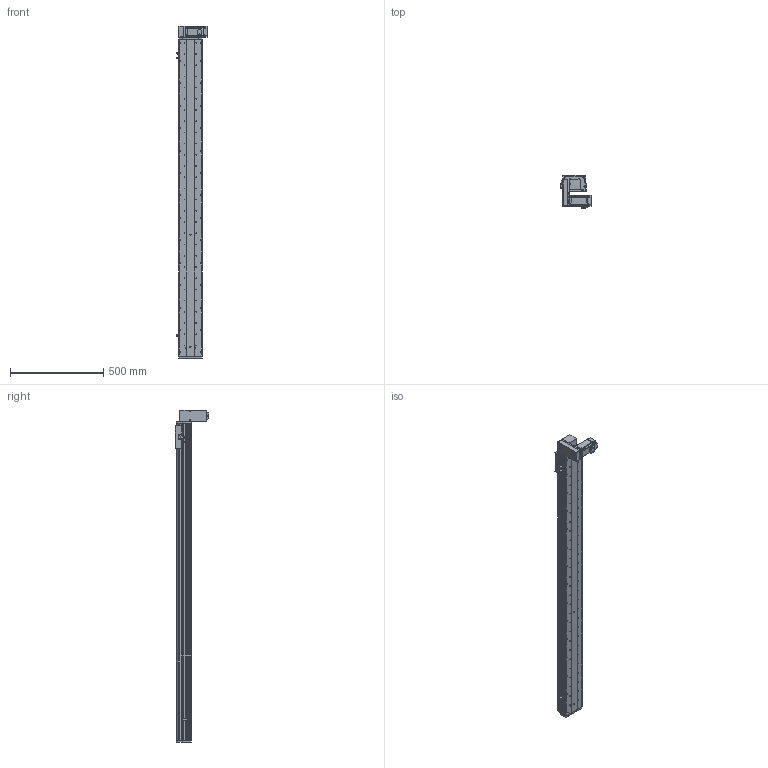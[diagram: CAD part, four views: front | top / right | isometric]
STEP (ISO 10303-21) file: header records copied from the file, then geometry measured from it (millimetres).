
FILE_DESCRIPTION (( 'STEP AP214' ), '1' );
FILE_NAME ('KSD125B-S1500-MRD-CM.STEP', '2017-10-21T06:38:36', ( '微软用户' ), ( '微软中国' ), 'SwSTEP 2.0', 'SolidWorks 2014', '' );
FILE_SCHEMA (( 'AUTOMOTIVE_DESIGN' ));
Length unit declared in the file: millimetre
Products named in the file (17): 悵誘欶奻狟殏; HTPA30S3M150_A_H6_a佪裝蚚; HTPA30S3M150_A_H6_a萇儂蚚; 100宽马达安装板连板上下折丝杆同步带; KSD125模组1500行程同步带-防尘盖; 125模组1500行程同步带-底板; MHMD042G1CA_2_03; KSD125模组同步带-防撞垫2; 覜茼え68遵圉猾敕; U倰嫖萇假蚾璃; U倰嫖萇EEㄜSX672; KSD125模组同步带-防撞垫1; 100宽马达安装板同步带右; 前端板-125宽模组同步带; 125模组同步带-尾端板1; KSD125模组同步带-滑动座1; KSD125B-S1500-MRD-CM
Assembly tree (20 placements, depth 2):
  KSD125B-S1500-MRD-CM
    KSD125模组同步带-滑动座1
    125模组同步带-尾端板1
    前端板-125宽模组同步带
    100宽马达安装板同步带右
    KSD125模组同步带-防撞垫1
    U倰嫖萇EEㄜSX672  x3
    U倰嫖萇假蚾璃  x3
    覜茼え68遵圉猾敕
    KSD125模组同步带-防撞垫2
    MHMD042G1CA_2_03
    125模组1500行程同步带-底板
    KSD125模组1500行程同步带-防尘盖
    100宽马达安装板连板上下折丝杆同步带
    HTPA30S3M150_A_H6_a萇儂蚚
    HTPA30S3M150_A_H6_a佪裝蚚
    悵誘欶奻狟殏
Bounding box: 168.7 x 179.5 x 1777 mm (x, y, z)
Volume: 5258046.6 mm3; surface area: 1742609.6 mm2
Topology: 19 solids, 22 shells, 2397 faces, 6955 edges, 4598 vertices
Faces by surface type: cylinder 1532, plane 738, cone 105, bspline 22
Entity records: 85901 total; most frequent: CARTESIAN_POINT 16905, DIRECTION 13340, ORIENTED_EDGE 12430, EDGE_CURVE 6293, AXIS2_PLACEMENT_3D 5181, VERTEX_POINT 4190, CIRCLE 3002, LINE 2978
